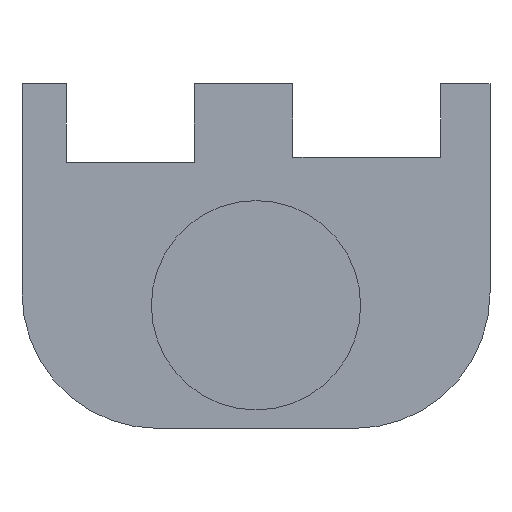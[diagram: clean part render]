
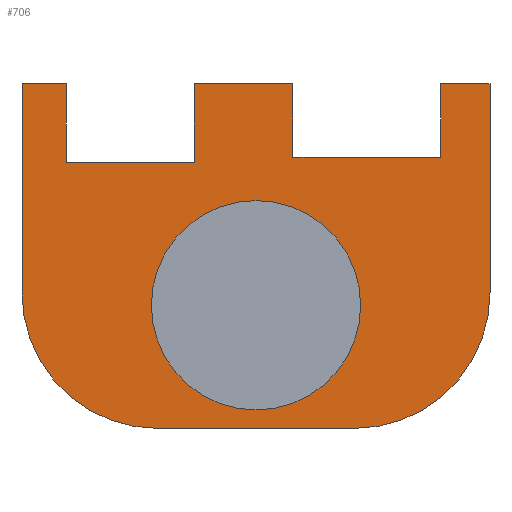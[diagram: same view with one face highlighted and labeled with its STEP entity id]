
A CAD part, front view. The second image highlights one B-rep face of the part: STEP entity #706.
In plain terms, the highlighted planar face has unit normal (0, -1, 0).
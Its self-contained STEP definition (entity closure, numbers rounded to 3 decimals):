
#15=FACE_BOUND('',#87,.T.);
#23=CIRCLE('',#748,4.25);
#24=CIRCLE('',#749,4.25);
#29=CIRCLE('',#762,5.5);
#30=CIRCLE('',#763,5.5);
#53=FACE_OUTER_BOUND('',#86,.T.);
#86=EDGE_LOOP('',(#550,#551,#552,#553,#554,#555,#556,#557,#558,#559,#560,
#561,#562,#563));
#87=EDGE_LOOP('',(#564,#565));
#117=LINE('',#1004,#205);
#152=LINE('',#1089,#240);
#155=LINE('',#1095,#243);
#158=LINE('',#1101,#246);
#159=LINE('',#1103,#247);
#160=LINE('',#1105,#248);
#161=LINE('',#1107,#249);
#162=LINE('',#1109,#250);
#163=LINE('',#1111,#251);
#164=LINE('',#1115,#252);
#165=LINE('',#1119,#253);
#166=LINE('',#1120,#254);
#205=VECTOR('',#807,10.);
#240=VECTOR('',#882,10.);
#243=VECTOR('',#887,10.);
#246=VECTOR('',#892,10.);
#247=VECTOR('',#893,10.);
#248=VECTOR('',#894,10.);
#249=VECTOR('',#895,10.);
#250=VECTOR('',#896,10.);
#251=VECTOR('',#897,10.);
#252=VECTOR('',#900,10.);
#253=VECTOR('',#903,10.);
#254=VECTOR('',#904,10.);
#291=VERTEX_POINT('',#1001);
#292=VERTEX_POINT('',#1003);
#307=VERTEX_POINT('',#1044);
#308=VERTEX_POINT('',#1045);
#322=VERTEX_POINT('',#1088);
#324=VERTEX_POINT('',#1094);
#326=VERTEX_POINT('',#1100);
#327=VERTEX_POINT('',#1102);
#328=VERTEX_POINT('',#1104);
#329=VERTEX_POINT('',#1106);
#330=VERTEX_POINT('',#1108);
#331=VERTEX_POINT('',#1110);
#332=VERTEX_POINT('',#1112);
#333=VERTEX_POINT('',#1114);
#334=VERTEX_POINT('',#1116);
#335=VERTEX_POINT('',#1118);
#363=EDGE_CURVE('',#292,#291,#117,.T.);
#383=EDGE_CURVE('',#307,#308,#23,.T.);
#384=EDGE_CURVE('',#308,#307,#24,.T.);
#406=EDGE_CURVE('',#291,#322,#152,.T.);
#409=EDGE_CURVE('',#324,#292,#155,.T.);
#412=EDGE_CURVE('',#322,#326,#158,.T.);
#413=EDGE_CURVE('',#326,#327,#159,.T.);
#414=EDGE_CURVE('',#327,#328,#160,.T.);
#415=EDGE_CURVE('',#328,#329,#161,.T.);
#416=EDGE_CURVE('',#329,#330,#162,.T.);
#417=EDGE_CURVE('',#330,#331,#163,.T.);
#418=EDGE_CURVE('',#332,#331,#29,.T.);
#419=EDGE_CURVE('',#332,#333,#164,.T.);
#420=EDGE_CURVE('',#334,#333,#30,.T.);
#421=EDGE_CURVE('',#334,#335,#165,.T.);
#422=EDGE_CURVE('',#335,#324,#166,.T.);
#550=ORIENTED_EDGE('',*,*,#409,.T.);
#551=ORIENTED_EDGE('',*,*,#363,.T.);
#552=ORIENTED_EDGE('',*,*,#406,.T.);
#553=ORIENTED_EDGE('',*,*,#412,.T.);
#554=ORIENTED_EDGE('',*,*,#413,.T.);
#555=ORIENTED_EDGE('',*,*,#414,.T.);
#556=ORIENTED_EDGE('',*,*,#415,.T.);
#557=ORIENTED_EDGE('',*,*,#416,.T.);
#558=ORIENTED_EDGE('',*,*,#417,.T.);
#559=ORIENTED_EDGE('',*,*,#418,.F.);
#560=ORIENTED_EDGE('',*,*,#419,.T.);
#561=ORIENTED_EDGE('',*,*,#420,.F.);
#562=ORIENTED_EDGE('',*,*,#421,.T.);
#563=ORIENTED_EDGE('',*,*,#422,.T.);
#564=ORIENTED_EDGE('',*,*,#383,.T.);
#565=ORIENTED_EDGE('',*,*,#384,.T.);
#677=PLANE('',#761);
#706=ADVANCED_FACE('',(#53,#15),#677,.F.);
#748=AXIS2_PLACEMENT_3D('',#1046,#841,#842);
#749=AXIS2_PLACEMENT_3D('',#1047,#843,#844);
#761=AXIS2_PLACEMENT_3D('',#1099,#890,#891);
#762=AXIS2_PLACEMENT_3D('',#1113,#898,#899);
#763=AXIS2_PLACEMENT_3D('',#1117,#901,#902);
#807=DIRECTION('',(-1.,0.,0.));
#841=DIRECTION('center_axis',(0.,1.,0.));
#842=DIRECTION('ref_axis',(0.,0.,-1.));
#843=DIRECTION('center_axis',(0.,1.,0.));
#844=DIRECTION('ref_axis',(0.,0.,-1.));
#882=DIRECTION('',(0.,0.,1.));
#887=DIRECTION('',(0.,0.,-1.));
#890=DIRECTION('center_axis',(0.,1.,0.));
#891=DIRECTION('ref_axis',(1.,0.,0.));
#892=DIRECTION('',(-1.,0.,0.));
#893=DIRECTION('',(0.,0.,-1.));
#894=DIRECTION('',(-1.,0.,0.));
#895=DIRECTION('',(0.,0.,1.));
#896=DIRECTION('',(-1.,0.,0.));
#897=DIRECTION('',(0.,0.,-1.));
#898=DIRECTION('center_axis',(0.,1.,0.));
#899=DIRECTION('ref_axis',(-0.707,0.,-0.707));
#900=DIRECTION('',(1.,0.,0.));
#901=DIRECTION('center_axis',(0.,1.,0.));
#902=DIRECTION('ref_axis',(0.707,0.,-0.707));
#903=DIRECTION('',(0.,0.,1.));
#904=DIRECTION('',(-1.,0.,0.));
#1001=CARTESIAN_POINT('',(16.,0.,16.));
#1003=CARTESIAN_POINT('',(22.,0.,16.));
#1004=CARTESIAN_POINT('',(15.25,0.,16.));
#1044=CARTESIAN_POINT('',(14.5,0.,5.75));
#1045=CARTESIAN_POINT('',(14.5,0.,14.25));
#1046=CARTESIAN_POINT('Origin',(14.5,0.,10.));
#1047=CARTESIAN_POINT('Origin',(14.5,0.,10.));
#1088=CARTESIAN_POINT('',(16.,0.,19.));
#1089=CARTESIAN_POINT('',(16.,0.,15.5));
#1094=CARTESIAN_POINT('',(22.,0.,19.));
#1095=CARTESIAN_POINT('',(22.,0.,14.));
#1099=CARTESIAN_POINT('Origin',(14.5,0.,12.));
#1100=CARTESIAN_POINT('',(12.,0.,19.));
#1101=CARTESIAN_POINT('',(24.,0.,19.));
#1102=CARTESIAN_POINT('',(12.,0.,15.8));
#1103=CARTESIAN_POINT('',(12.,0.,13.9));
#1104=CARTESIAN_POINT('',(6.8,0.,15.8));
#1105=CARTESIAN_POINT('',(10.65,0.,15.8));
#1106=CARTESIAN_POINT('',(6.8,0.,19.));
#1107=CARTESIAN_POINT('',(6.8,0.,15.5));
#1108=CARTESIAN_POINT('',(5.,0.,19.));
#1109=CARTESIAN_POINT('',(24.,0.,19.));
#1110=CARTESIAN_POINT('',(5.,0.,10.5));
#1111=CARTESIAN_POINT('',(5.,0.,19.));
#1112=CARTESIAN_POINT('',(10.5,0.,5.));
#1113=CARTESIAN_POINT('Origin',(10.5,0.,10.5));
#1114=CARTESIAN_POINT('',(18.5,0.,5.));
#1115=CARTESIAN_POINT('',(5.,0.,5.));
#1116=CARTESIAN_POINT('',(24.,0.,10.5));
#1117=CARTESIAN_POINT('Origin',(18.5,0.,10.5));
#1118=CARTESIAN_POINT('',(24.,0.,19.));
#1119=CARTESIAN_POINT('',(24.,0.,5.));
#1120=CARTESIAN_POINT('',(24.,0.,19.));
